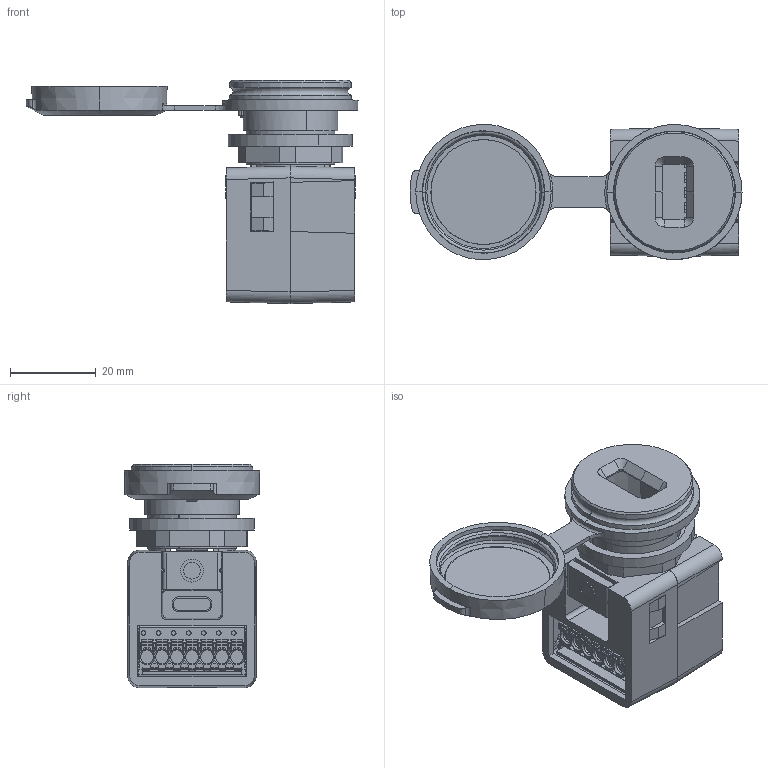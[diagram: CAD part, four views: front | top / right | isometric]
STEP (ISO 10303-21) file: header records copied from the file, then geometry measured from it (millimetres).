
FILE_DESCRIPTION((''),'2;1');
FILE_NAME('2031118','2021-07-12T11:55:34',('t.hampe'),(''),'CREO PARAMETRIC BY PTC INC, 2019292','CREO PARAMETRIC BY PTC INC, 2019292','');
FILE_SCHEMA(('AUTOMOTIVE_DESIGN { 1 0 10303 214 1 1 1 1 }'));
Products named in the file (1): 2031118
Bounding box: 77.39 x 31.53 x 52.03 mm (x, y, z)
Volume: 9430.9 mm3; surface area: 26194.2 mm2
Topology: 3 solids, 11 shells, 1710 faces, 4836 edges, 3158 vertices
Faces by surface type: plane 1203, cylinder 315, cone 158, bspline 23, torus 6, sphere 3, revolution 2
Entity records: 81485 total; most frequent: CARTESIAN_POINT 13312, ORIENTED_EDGE 9613, DIRECTION 8675, PRESENTATION_STYLE_ASSIGNMENT 6131, STYLED_ITEM 4848, CURVE_STYLE 4837, EDGE_CURVE 4836, VECTOR 3637
